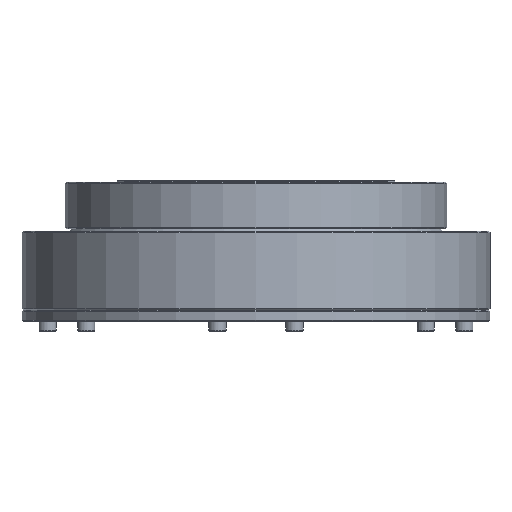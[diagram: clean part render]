
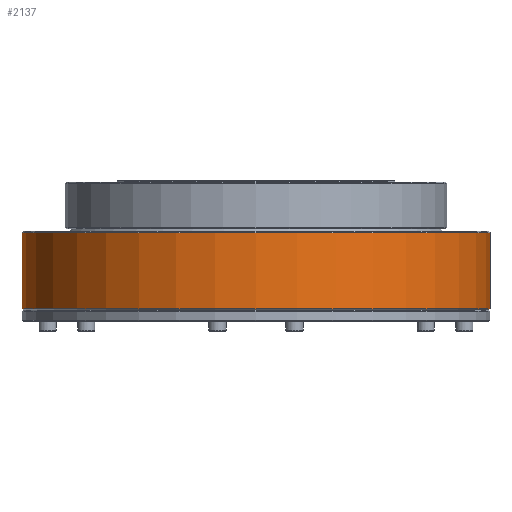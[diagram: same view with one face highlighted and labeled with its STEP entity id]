
A CAD part, front view. The second image highlights one B-rep face of the part: STEP entity #2137.
In plain terms, the highlighted cylindrical face has radius 95 mm (diameter 190 mm), a full revolution.
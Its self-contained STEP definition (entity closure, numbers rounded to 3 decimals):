
#2137=ADVANCED_FACE('',(#3096,#3097),#2472,.T.);
#2472=CYLINDRICAL_SURFACE('',#10031,95.);
#3096=FACE_BOUND('',#4163,.T.);
#3097=FACE_BOUND('',#4164,.T.);
#4163=EDGE_LOOP('',(#6057));
#4164=EDGE_LOOP('',(#6058));
#6057=ORIENTED_EDGE('',*,*,#8139,.T.);
#6058=ORIENTED_EDGE('',*,*,#8138,.F.);
#7151=VERTEX_POINT('',#17475);
#7152=VERTEX_POINT('',#17478);
#8138=EDGE_CURVE('',#7151,#7151,#8904,.T.);
#8139=EDGE_CURVE('',#7152,#7152,#8905,.T.);
#8904=CIRCLE('',#10028,95.);
#8905=CIRCLE('',#10030,95.);
#10028=AXIS2_PLACEMENT_3D('',#17474,#12454,#12455);
#10030=AXIS2_PLACEMENT_3D('',#17477,#12458,#12459);
#10031=AXIS2_PLACEMENT_3D('',#17479,#12460,#12461);
#12454=DIRECTION('',(-1.,0.,0.));
#12455=DIRECTION('',(0.,0.,1.));
#12458=DIRECTION('',(-1.,0.,0.));
#12459=DIRECTION('',(0.,0.,1.));
#12460=DIRECTION('',(-1.,0.,0.));
#12461=DIRECTION('',(0.,0.,-1.));
#17474=CARTESIAN_POINT('',(10.003,0.,0.));
#17475=CARTESIAN_POINT('',(10.003,0.,95.));
#17477=CARTESIAN_POINT('',(41.003,0.,0.));
#17478=CARTESIAN_POINT('',(41.003,0.,95.));
#17479=CARTESIAN_POINT('',(52.556,0.,0.));
